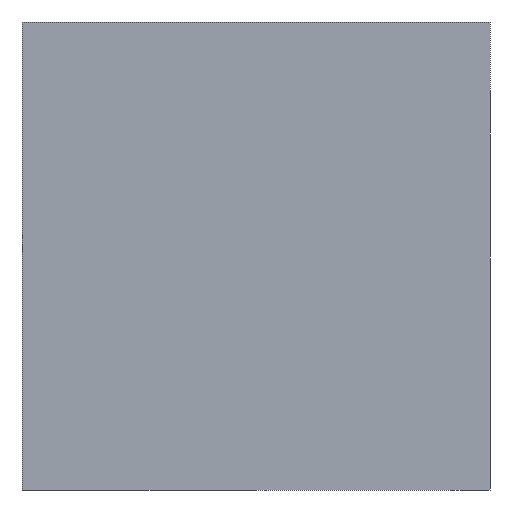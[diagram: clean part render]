
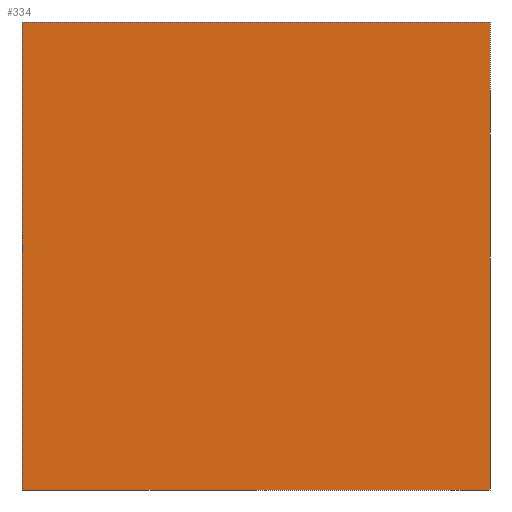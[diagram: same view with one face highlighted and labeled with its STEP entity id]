
A CAD part, left-side view. The second image highlights one B-rep face of the part: STEP entity #334.
In plain terms, the highlighted planar face has unit normal (-1, 0, 0).
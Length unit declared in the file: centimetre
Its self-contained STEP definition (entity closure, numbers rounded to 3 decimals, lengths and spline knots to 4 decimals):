
#5 = VECTOR ( 'NONE', #36, 100. ) ;
#27 = EDGE_CURVE ( 'NONE', #163, #430, #245, .T. ) ;
#33 = CARTESIAN_POINT ( 'NONE',  ( 0., 1000., 1000. ) ) ;
#36 = DIRECTION ( 'NONE',  ( 0., -1., 0. ) ) ;
#37 = DIRECTION ( 'NONE',  ( 1., 0., 0. ) ) ;
#51 = ORIENTED_EDGE ( 'NONE', *, *, #489, .T. ) ;
#53 = LINE ( 'NONE', #274, #213 ) ;
#87 = LINE ( 'NONE', #580, #5 ) ;
#103 = VERTEX_POINT ( 'NONE', #325 ) ;
#118 = EDGE_CURVE ( 'NONE', #103, #163, #53, .T. ) ;
#126 = AXIS2_PLACEMENT_3D ( 'NONE', #441, #37, #405 ) ;
#161 = VERTEX_POINT ( 'NONE', #542 ) ;
#163 = VERTEX_POINT ( 'NONE', #228 ) ;
#192 = EDGE_CURVE ( 'NONE', #103, #161, #437, .T. ) ;
#213 = VECTOR ( 'NONE', #415, 100. ) ;
#228 = CARTESIAN_POINT ( 'NONE',  ( 0., 0., 1000. ) ) ;
#241 = VECTOR ( 'NONE', #261, 100. ) ;
#245 = LINE ( 'NONE', #336, #393 ) ;
#253 = ORIENTED_EDGE ( 'NONE', *, *, #118, .F. ) ;
#261 = DIRECTION ( 'NONE',  ( 0., 0., -1. ) ) ;
#274 = CARTESIAN_POINT ( 'NONE',  ( 0., 1000., 1000. ) ) ;
#300 = CARTESIAN_POINT ( 'NONE',  ( 0., 0., 0. ) ) ;
#302 = FACE_OUTER_BOUND ( 'NONE', #425, .T. ) ;
#325 = CARTESIAN_POINT ( 'NONE',  ( 0., 1000., 1000. ) ) ;
#332 = ORIENTED_EDGE ( 'NONE', *, *, #192, .T. ) ;
#334 = ADVANCED_FACE ( 'NONE', ( #302 ), #487, .F. ) ;
#336 = CARTESIAN_POINT ( 'NONE',  ( 0., 0., 1000. ) ) ;
#393 = VECTOR ( 'NONE', #429, 100. ) ;
#405 = DIRECTION ( 'NONE',  ( 0., 0., -1. ) ) ;
#415 = DIRECTION ( 'NONE',  ( 0., -1., 0. ) ) ;
#424 = ORIENTED_EDGE ( 'NONE', *, *, #27, .F. ) ;
#425 = EDGE_LOOP ( 'NONE', ( #51, #424, #253, #332 ) ) ;
#429 = DIRECTION ( 'NONE',  ( 0., 0., -1. ) ) ;
#430 = VERTEX_POINT ( 'NONE', #300 ) ;
#437 = LINE ( 'NONE', #33, #241 ) ;
#441 = CARTESIAN_POINT ( 'NONE',  ( 0., 1000., 1000. ) ) ;
#487 = PLANE ( 'NONE',  #126 ) ;
#489 = EDGE_CURVE ( 'NONE', #161, #430, #87, .T. ) ;
#542 = CARTESIAN_POINT ( 'NONE',  ( 0., 1000., 0. ) ) ;
#580 = CARTESIAN_POINT ( 'NONE',  ( 0., 1000., 0. ) ) ;
